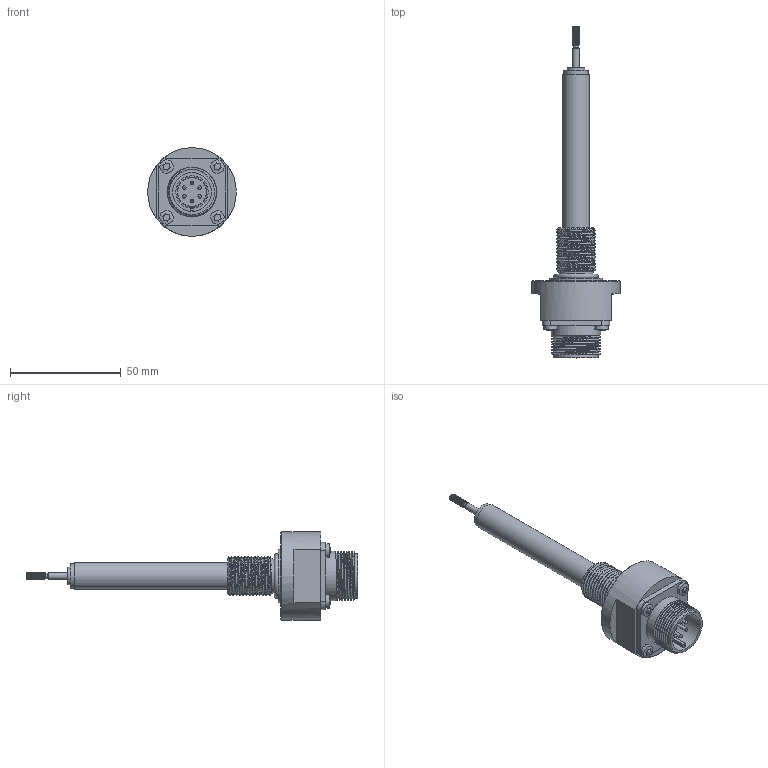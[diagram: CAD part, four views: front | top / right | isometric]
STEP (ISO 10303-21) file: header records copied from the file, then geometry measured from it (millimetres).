
FILE_DESCRIPTION( ( 'STEP AP214' ), '1' );
FILE_NAME( 'N:/Engineering/CAD_Solid/LVDT/HYD/Kunden-3D-Modell/SM25-HYD-M-18-S.stp', '2011-12-14T13:48:18', ( ' ' ), ( ' ' ), 'XStep 1.0', ' ', ' ' );
FILE_SCHEMA( ( 'CONFIG_CONTROL_DESIGN) ( )' ) );
Length unit declared in the file: metre
Products named in the file (17): 1; 2; 3; 4; 5; 6; 7; 8; 9; 10; 11; 12; 13; 14; 15; 16; 17
Bounding box: 40 x 149.9 x 40 mm (x, y, z)
Volume: 177.7 mm3; surface area: 15943.6 mm2
Topology: 1 solids, 134 shells, 142 faces, 635 edges, 590 vertices
Faces by surface type: plane 80, cylinder 37, bspline 13, cone 7, sphere 4, torus 1
Full cylindrical faces by diameter (mm): 1.6 x6, 2.4 x1, 3 x1, 4 x1, 6 x4, 8 x1, 11 x1, 12 x1, 15.8 x1, 17.6 x1, 20.2 x1, 22.3 x7, 24 x1, 40 x1
Entity records: 16941 total; most frequent: CARTESIAN_POINT 11498, DIRECTION 1027, ORIENTED_EDGE 562, EDGE_CURVE 562, VERTEX_POINT 562, AXIS2_PLACEMENT_3D 382, LINE 263, VECTOR 263
